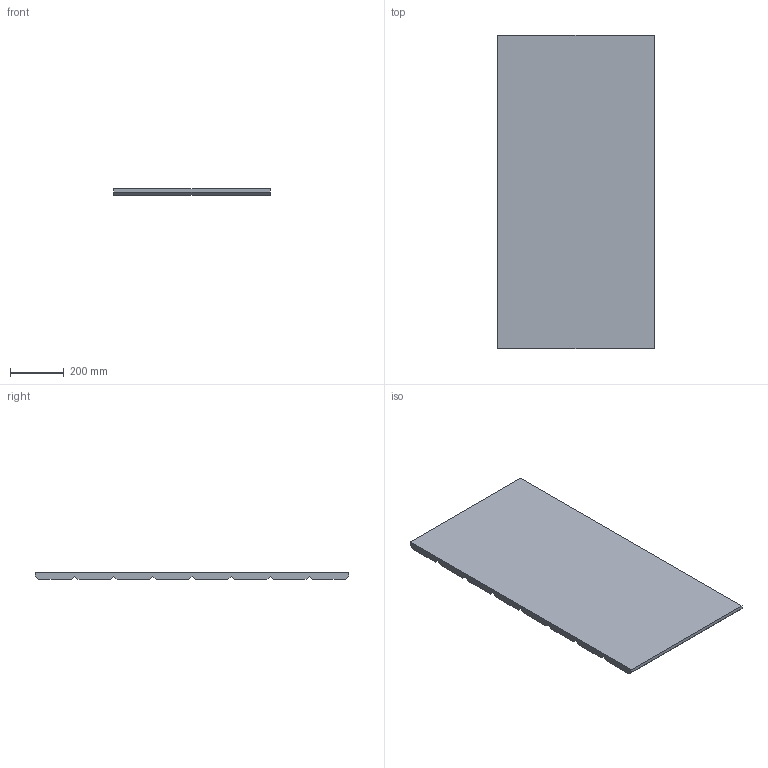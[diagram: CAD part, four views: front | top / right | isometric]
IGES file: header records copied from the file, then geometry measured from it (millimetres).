
Start section: SolidWorks IGES file using analytic representation for surfaces
Global section: file name: \\vmware-host\Shared Folders\Desktop\BAUX\horizontal.IGS; native system: SolidWorks 2014; preprocessor: SolidWorks 2014; author: iMac 3; date: 150121.181722; units: millimetre
Bounding box: 580 x 1160 x 25 mm (x, y, z)
Surface area: 1463648.8 mm2 (no closed solid volume)
Topology: 0 solids, 0 shells, 29 faces, 162 edges, 162 vertices
Faces by surface type: bspline 29
